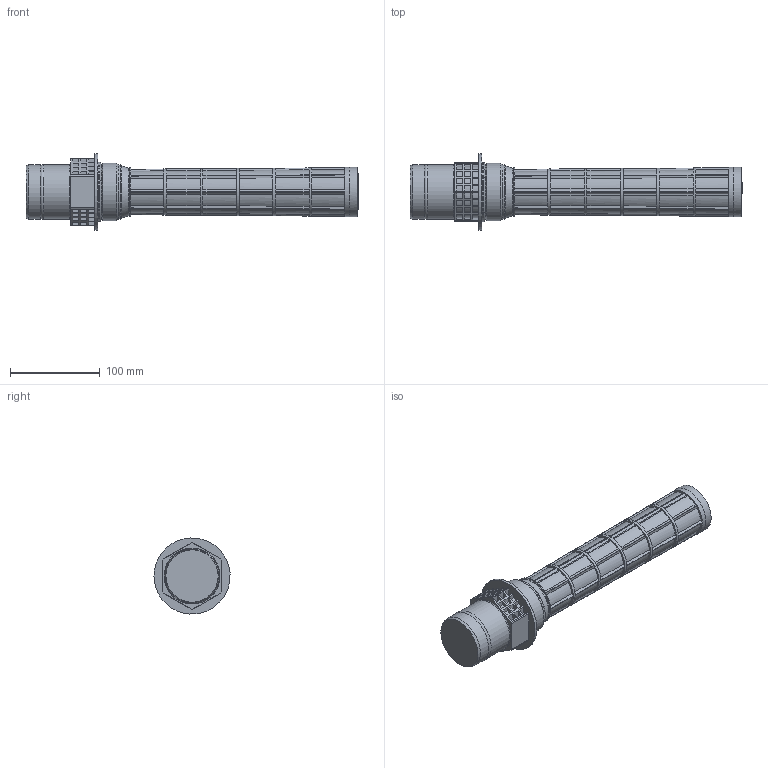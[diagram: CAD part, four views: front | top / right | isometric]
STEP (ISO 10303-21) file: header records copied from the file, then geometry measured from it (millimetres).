
FILE_DESCRIPTION((''),'2;1');
FILE_NAME('U:\Users\t.schleuter\Siebelement15229500(302001).stp', '2013-04-15T09:46:19',('User'),('SDRC'),'I-DEAS Master Series 9','UNIX', 'Yes');
FILE_SCHEMA(('AUTOMOTIVE_DESIGN { 1 0 10303 214 1 1 1 1 }'));
Length unit declared in the file: millimetre
Products named in the file (1): 15229500(302001)
Bounding box: 370.58 x 84.86 x 84.88 mm (x, y, z)
Volume: 841887.6 mm3; surface area: 92378.3 mm2
Topology: 1 solids, 1 shells, 787 faces, 2145 edges, 1424 vertices
Faces by surface type: bspline 787
Entity records: 28541 total; most frequent: CARTESIAN_POINT 15453, ORIENTED_EDGE 4290, EDGE_CURVE 2145, VERTEX_POINT 1424, B_SPLINE_CURVE_WITH_KNOTS 1319, EDGE_LOOP 851, FACE_OUTER_BOUND 787, ADVANCED_FACE 787
